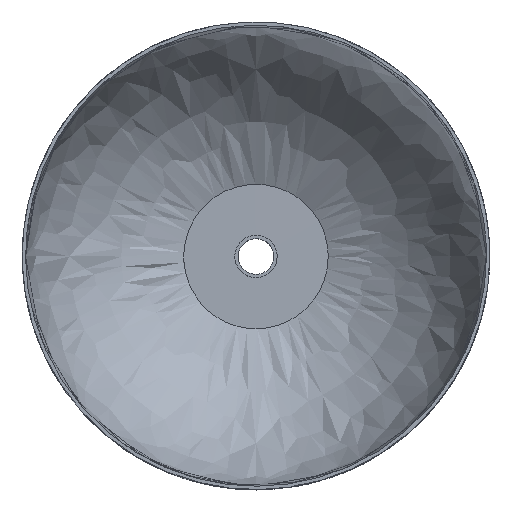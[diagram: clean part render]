
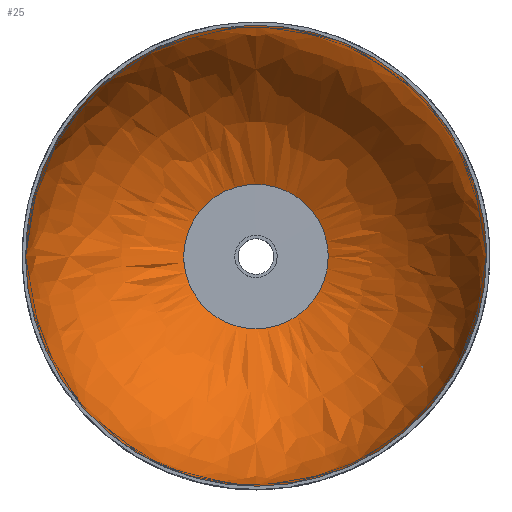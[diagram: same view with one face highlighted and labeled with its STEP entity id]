
A CAD part, top view. The second image highlights one B-rep face of the part: STEP entity #25.
In plain terms, the highlighted free-form (B-spline) face has degree [2, 2] with [9, 5] control points.
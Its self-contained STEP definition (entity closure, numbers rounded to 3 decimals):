
#25=ADVANCED_FACE('',(#38),#181,.T.);
#38=FACE_OUTER_BOUND('',#51,.T.);
#51=EDGE_LOOP('',(#67,#68,#69,#70));
#67=ORIENTED_EDGE('',*,*,#116,.F.);
#68=ORIENTED_EDGE('',*,*,#115,.T.);
#69=ORIENTED_EDGE('',*,*,#116,.T.);
#70=ORIENTED_EDGE('',*,*,#129,.F.);
#115=EDGE_CURVE('',#167,#167,#150,.T.);
#116=EDGE_CURVE('',#167,#179,#151,.T.);
#129=EDGE_CURVE('',#179,#179,#155,.T.);
#150=(
BOUNDED_CURVE()
B_SPLINE_CURVE(2,(#538,#539,#540,#541,#542,#543,#544,#545,#546),
 .UNSPECIFIED.,.T.,.F.)
B_SPLINE_CURVE_WITH_KNOTS((3,2,2,2,3),(0.,164.934,329.867,
494.801,659.734),.UNSPECIFIED.)
CURVE()
GEOMETRIC_REPRESENTATION_ITEM()
RATIONAL_B_SPLINE_CURVE((1.,0.707,1.,0.707,1.,0.707,
1.,0.707,1.))
REPRESENTATION_ITEM('')
);
#151=(
BOUNDED_CURVE()
B_SPLINE_CURVE(2,(#547,#548,#549,#550,#551),.UNSPECIFIED.,.F.,.F.)
B_SPLINE_CURVE_WITH_KNOTS((3,2,3),(103.008,154.316,422.639),
 .UNSPECIFIED.)
CURVE()
GEOMETRIC_REPRESENTATION_ITEM()
RATIONAL_B_SPLINE_CURVE((1.,0.809,1.,1.,1.))
REPRESENTATION_ITEM('')
);
#155=(
BOUNDED_CURVE()
B_SPLINE_CURVE(2,(#581,#582,#583,#584,#585,#586,#587,#588,#589),
 .UNSPECIFIED.,.T.,.F.)
B_SPLINE_CURVE_WITH_KNOTS((3,2,2,2,3),(0.,164.934,329.867,
494.801,659.734),.UNSPECIFIED.)
CURVE()
GEOMETRIC_REPRESENTATION_ITEM()
RATIONAL_B_SPLINE_CURVE((1.,0.707,1.,0.707,1.,0.707,
1.,0.707,1.))
REPRESENTATION_ITEM('')
);
#167=VERTEX_POINT('',#525);
#179=VERTEX_POINT('',#537);
#181=(
BOUNDED_SURFACE()
B_SPLINE_SURFACE(2,2,((#237,#238,#239,#240,#241),(#242,#243,#244,#245,#246),
(#247,#248,#249,#250,#251),(#252,#253,#254,#255,#256),(#257,#258,#259,#260,
#261),(#262,#263,#264,#265,#266),(#267,#268,#269,#270,#271),(#272,#273,
#274,#275,#276),(#277,#278,#279,#280,#281)),.UNSPECIFIED.,.T.,.F.,.F.)
B_SPLINE_SURFACE_WITH_KNOTS((3,2,2,2,3),(3,2,3),(0.,164.934,329.867,
494.801,659.734),(103.008,154.316,422.639),
 .UNSPECIFIED.)
GEOMETRIC_REPRESENTATION_ITEM()
RATIONAL_B_SPLINE_SURFACE(((1.,0.809,1.,1.,1.),(0.707,
0.572,0.707,0.707,0.707),
(1.,0.809,1.,1.,1.),(0.707,0.572,0.707,
0.707,0.707),(1.,0.809,1.,1.,1.),(0.707,
0.572,0.707,0.707,0.707),
(1.,0.809,1.,1.,1.),(0.707,0.572,0.707,
0.707,0.707),(1.,0.809,1.,1.,1.)))
REPRESENTATION_ITEM('')
SURFACE()
);
#237=CARTESIAN_POINT('',(32.435,0.,90.312));
#238=CARTESIAN_POINT('',(103.5,0.,113.474));
#239=CARTESIAN_POINT('',(103.5,0.,188.219));
#240=CARTESIAN_POINT('',(103.5,0.,245.681));
#241=CARTESIAN_POINT('',(103.5,0.,303.143));
#242=CARTESIAN_POINT('',(32.435,-32.435,90.312));
#243=CARTESIAN_POINT('',(103.5,-103.5,113.474));
#244=CARTESIAN_POINT('',(103.5,-103.5,188.219));
#245=CARTESIAN_POINT('',(103.5,-103.5,245.681));
#246=CARTESIAN_POINT('',(103.5,-103.5,303.143));
#247=CARTESIAN_POINT('',(0.,-32.435,90.312));
#248=CARTESIAN_POINT('',(0.,-103.5,113.474));
#249=CARTESIAN_POINT('',(0.,-103.5,188.219));
#250=CARTESIAN_POINT('',(0.,-103.5,245.681));
#251=CARTESIAN_POINT('',(0.,-103.5,303.143));
#252=CARTESIAN_POINT('',(-32.435,-32.435,90.312));
#253=CARTESIAN_POINT('',(-103.5,-103.5,113.474));
#254=CARTESIAN_POINT('',(-103.5,-103.5,188.219));
#255=CARTESIAN_POINT('',(-103.5,-103.5,245.681));
#256=CARTESIAN_POINT('',(-103.5,-103.5,303.143));
#257=CARTESIAN_POINT('',(-32.435,0.,90.312));
#258=CARTESIAN_POINT('',(-103.5,0.,113.474));
#259=CARTESIAN_POINT('',(-103.5,0.,188.219));
#260=CARTESIAN_POINT('',(-103.5,0.,245.681));
#261=CARTESIAN_POINT('',(-103.5,0.,303.143));
#262=CARTESIAN_POINT('',(-32.435,32.435,90.312));
#263=CARTESIAN_POINT('',(-103.5,103.5,113.474));
#264=CARTESIAN_POINT('',(-103.5,103.5,188.219));
#265=CARTESIAN_POINT('',(-103.5,103.5,245.681));
#266=CARTESIAN_POINT('',(-103.5,103.5,303.143));
#267=CARTESIAN_POINT('',(0.,32.435,90.312));
#268=CARTESIAN_POINT('',(0.,103.5,113.474));
#269=CARTESIAN_POINT('',(0.,103.5,188.219));
#270=CARTESIAN_POINT('',(0.,103.5,245.681));
#271=CARTESIAN_POINT('',(0.,103.5,303.143));
#272=CARTESIAN_POINT('',(32.435,32.435,90.312));
#273=CARTESIAN_POINT('',(103.5,103.5,113.474));
#274=CARTESIAN_POINT('',(103.5,103.5,188.219));
#275=CARTESIAN_POINT('',(103.5,103.5,245.681));
#276=CARTESIAN_POINT('',(103.5,103.5,303.143));
#277=CARTESIAN_POINT('',(32.435,0.,90.312));
#278=CARTESIAN_POINT('',(103.5,0.,113.474));
#279=CARTESIAN_POINT('',(103.5,0.,188.219));
#280=CARTESIAN_POINT('',(103.5,0.,245.681));
#281=CARTESIAN_POINT('',(103.5,0.,303.143));
#525=CARTESIAN_POINT('',(32.435,0.,90.312));
#537=CARTESIAN_POINT('',(103.5,0.,303.143));
#538=CARTESIAN_POINT('',(32.435,0.,90.312));
#539=CARTESIAN_POINT('',(32.435,-32.435,90.312));
#540=CARTESIAN_POINT('',(0.,-32.435,90.312));
#541=CARTESIAN_POINT('',(-32.435,-32.435,90.312));
#542=CARTESIAN_POINT('',(-32.435,0.,90.312));
#543=CARTESIAN_POINT('',(-32.435,32.435,90.312));
#544=CARTESIAN_POINT('',(0.,32.435,90.312));
#545=CARTESIAN_POINT('',(32.435,32.435,90.312));
#546=CARTESIAN_POINT('',(32.435,0.,90.312));
#547=CARTESIAN_POINT('',(32.435,0.,90.312));
#548=CARTESIAN_POINT('',(103.5,0.,113.474));
#549=CARTESIAN_POINT('',(103.5,0.,188.219));
#550=CARTESIAN_POINT('',(103.5,0.,245.681));
#551=CARTESIAN_POINT('',(103.5,0.,303.143));
#581=CARTESIAN_POINT('',(103.5,0.,303.143));
#582=CARTESIAN_POINT('',(103.5,-103.5,303.143));
#583=CARTESIAN_POINT('',(0.,-103.5,303.143));
#584=CARTESIAN_POINT('',(-103.5,-103.5,303.143));
#585=CARTESIAN_POINT('',(-103.5,0.,303.143));
#586=CARTESIAN_POINT('',(-103.5,103.5,303.143));
#587=CARTESIAN_POINT('',(0.,103.5,303.143));
#588=CARTESIAN_POINT('',(103.5,103.5,303.143));
#589=CARTESIAN_POINT('',(103.5,0.,303.143));
